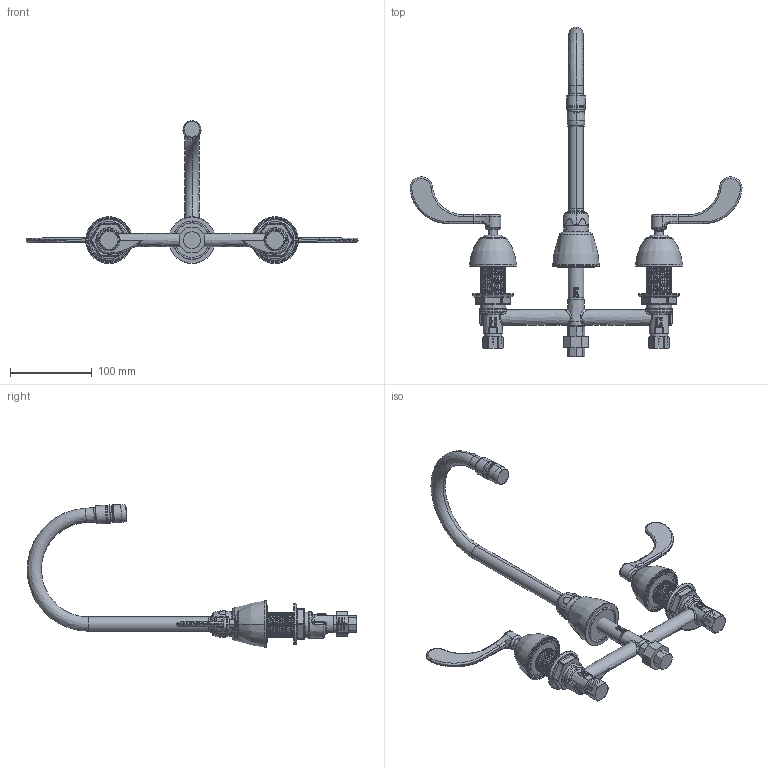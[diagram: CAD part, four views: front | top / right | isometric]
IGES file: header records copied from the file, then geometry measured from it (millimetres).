
Start section:  PTC IGES file: LWM3-B23-A.igs
Global section: file name: LWM3-B23-A.igs; native system: Creo Parametric by PTC Inc.; preprocessor: 2014500; author: usch_engrender; organization: Unknown; date: 20160209.170648; units: inch
Bounding box: 406.39 x 403.54 x 174.98 mm (x, y, z)
Surface area: 136029.9 mm2 (no closed solid volume)
Topology: 0 solids, 61 shells, 935 faces, 2448 edges, 1550 vertices
Faces by surface type: revolution 548, bspline 387
